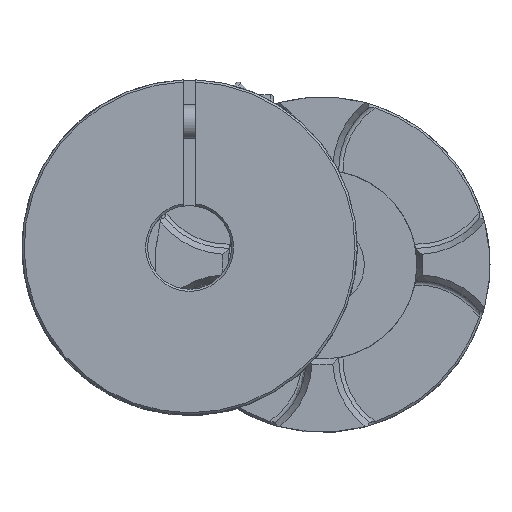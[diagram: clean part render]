
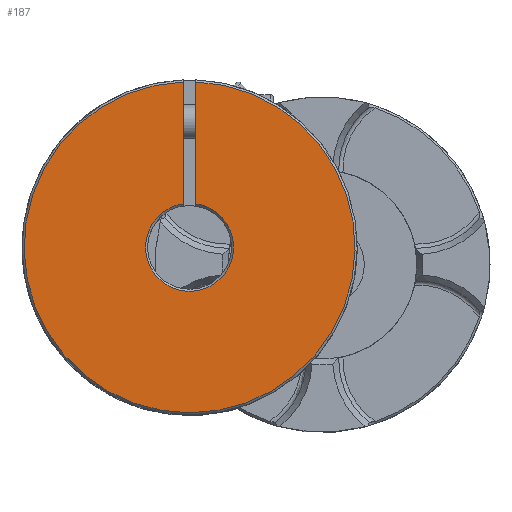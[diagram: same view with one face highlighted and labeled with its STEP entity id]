
A CAD part, top view. The second image highlights one B-rep face of the part: STEP entity #187.
In plain terms, the highlighted planar face has unit normal (0, 0, 1) as drawn and (0, 0, -1) by its records, which use the part's own axes.
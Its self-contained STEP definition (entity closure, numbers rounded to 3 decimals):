
#187 = ADVANCED_FACE( 'NONE', ( #411 ), #412, .F. );
#411 = FACE_OUTER_BOUND( '', #727, .T. );
#412 = PLANE( '', #728 );
#727 = EDGE_LOOP( '', ( #1538, #1539, #1540, #1541 ) );
#728 = AXIS2_PLACEMENT_3D( '', #1542, #1543, #1544 );
#1538 = ORIENTED_EDGE( '', *, *, #2406, .F. );
#1539 = ORIENTED_EDGE( '', *, *, #2362, .T. );
#1540 = ORIENTED_EDGE( '', *, *, #2403, .T. );
#1541 = ORIENTED_EDGE( '', *, *, #2407, .T. );
#1542 = CARTESIAN_POINT( '', ( 0., 0., 0. ) );
#1543 = DIRECTION( '', ( 0., 0., 1. ) );
#1544 = DIRECTION( '', ( 1., 0., 0. ) );
#2362 = EDGE_CURVE( 'NONE', #2984, #2982, #2985, .F. );
#2403 = EDGE_CURVE( 'NONE', #2982, #3045, #3047, .T. );
#2406 = EDGE_CURVE( 'NONE', #2984, #3050, #3051, .F. );
#2407 = EDGE_CURVE( 'NONE', #3045, #3050, #3052, .T. );
#2982 = VERTEX_POINT( 'NONE', #4504 );
#2984 = VERTEX_POINT( 'NONE', #4509 );
#2985 = CIRCLE( '', #4510, 39.5 );
#3045 = VERTEX_POINT( 'NONE', #4695 );
#3047 = LINE( '', #4700, #4701 );
#3050 = VERTEX_POINT( 'NONE', #4705 );
#3051 = LINE( '', #4706, #4707 );
#3052 = CIRCLE( '', #4708, 10.5 );
#4504 = CARTESIAN_POINT( '', ( 26.85, 28.971, 0. ) );
#4509 = CARTESIAN_POINT( '', ( 28.971, 26.85, 0. ) );
#4510 = AXIS2_PLACEMENT_3D( '', #5474, #5475, #5476 );
#4695 = CARTESIAN_POINT( '', ( 6.288, 8.409, 0. ) );
#4700 = CARTESIAN_POINT( '', ( -1.061, 1.061, 0. ) );
#4701 = VECTOR( '', #5526, 1000. );
#4705 = CARTESIAN_POINT( '', ( 8.409, 6.288, 0. ) );
#4706 = CARTESIAN_POINT( '', ( 1.061, -1.061, 0. ) );
#4707 = VECTOR( '', #5528, 1000. );
#4708 = AXIS2_PLACEMENT_3D( '', #5529, #5530, #5531 );
#5474 = CARTESIAN_POINT( '', ( 0., 0., 0. ) );
#5475 = DIRECTION( '', ( 0., 0., 1. ) );
#5476 = DIRECTION( '', ( 1., 0., 0. ) );
#5526 = DIRECTION( '', ( -0.707, -0.707, 0. ) );
#5528 = DIRECTION( '', ( 0.707, 0.707, 0. ) );
#5529 = CARTESIAN_POINT( '', ( 0., 0., 0. ) );
#5530 = DIRECTION( '', ( 0., 0., 1. ) );
#5531 = DIRECTION( '', ( 1., 0., 0. ) );
